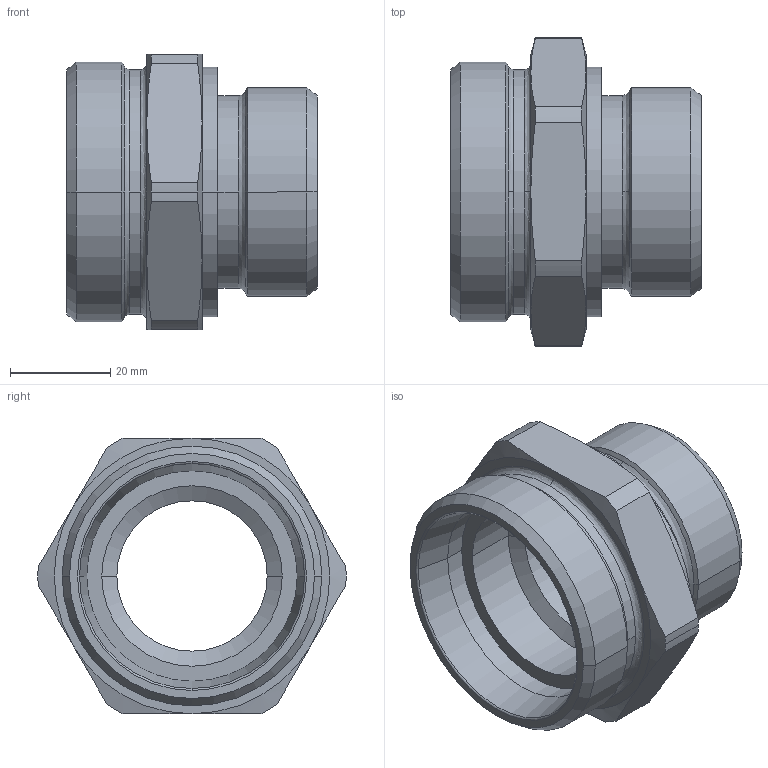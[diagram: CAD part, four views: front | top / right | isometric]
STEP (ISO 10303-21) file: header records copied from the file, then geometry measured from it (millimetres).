
FILE_DESCRIPTION((''),'2;1');
FILE_NAME('100554.stp','2007-10-30T14:22:00',(''),(''),'AutoCAD STEP 2000i','AutoCAD 2000i',', , ');
FILE_SCHEMA(('CONFIG_CONTROL_DESIGN'));
Length unit declared in the file: millimetre
Products named in the file (2): 100554.0; CHIAVE SMUSSATA#0
Assembly tree (1 placements, depth 2):
  100554.0
    CHIAVE SMUSSATA#0
Bounding box: 50 x 61.5 x 55 mm (x, y, z)
Volume: 44798.4 mm3; surface area: 16912.7 mm2
Topology: 1 solids, 1 shells, 79 faces, 193 edges, 121 vertices
Faces by surface type: cylinder 26, cone 26, plane 13, bspline 12, torus 2
Entity records: 2935 total; most frequent: CARTESIAN_POINT 971, DIRECTION 430, ORIENTED_EDGE 386, EDGE_CURVE 193, AXIS2_PLACEMENT_3D 192, CIRCLE 123, VERTEX_POINT 121, EDGE_LOOP 86
